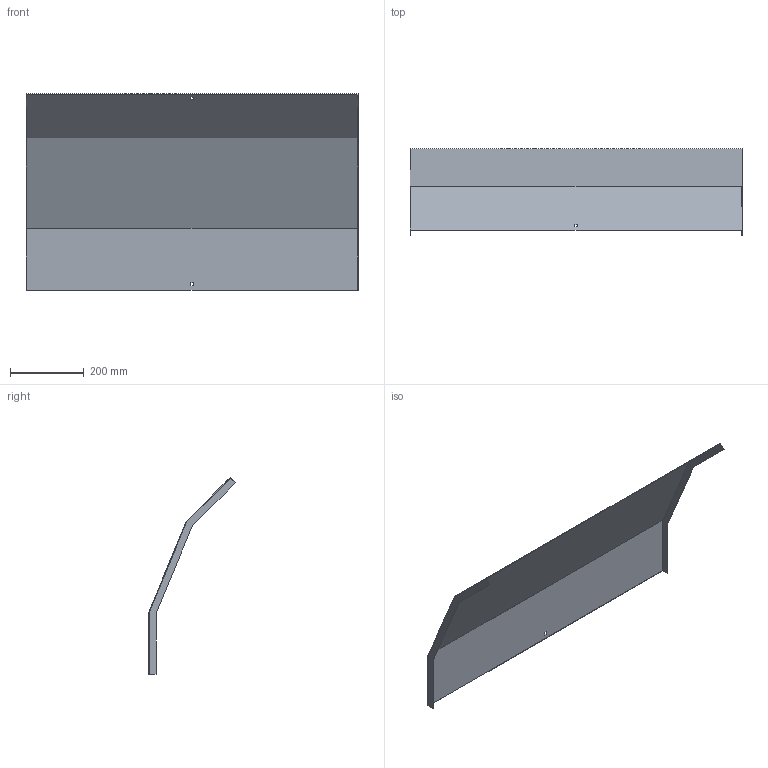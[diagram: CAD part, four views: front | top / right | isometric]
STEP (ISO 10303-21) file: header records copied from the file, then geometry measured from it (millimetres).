
FILE_DESCRIPTION (( 'STEP AP214' ), '1' );
FILE_NAME ('A2_34N3C900.step', '2025-02-21T10:34:37', ( '' ), ( '' ), 'SwSTEP 2.0', 'SolidWorks 2023', '' );
FILE_SCHEMA (( 'AUTOMOTIVE_DESIGN' ));
Length unit declared in the file: millimetre
Products named in the file (1): A2_34N3C900
Bounding box: 903 x 235.79 x 535.1 mm (x, y, z)
Volume: 851468.8 mm3; surface area: 1139973.6 mm2
Topology: 1 solids, 1 shells, 26 faces, 72 edges, 48 vertices
Faces by surface type: plane 26
Entity records: 847 total; most frequent: CARTESIAN_POINT 147, ORIENTED_EDGE 144, DIRECTION 126, LINE 72, VECTOR 72, EDGE_CURVE 72, VERTEX_POINT 48, EDGE_LOOP 30
